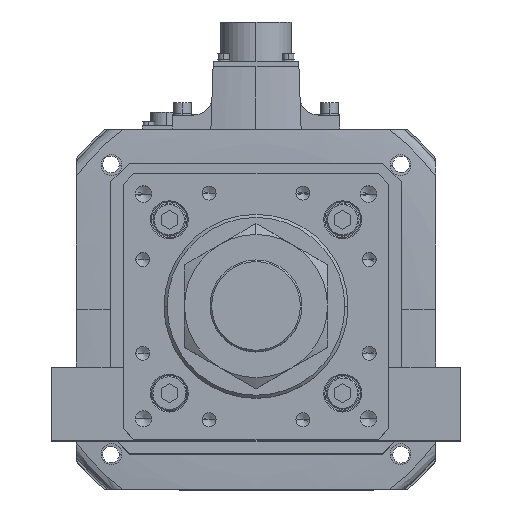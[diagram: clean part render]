
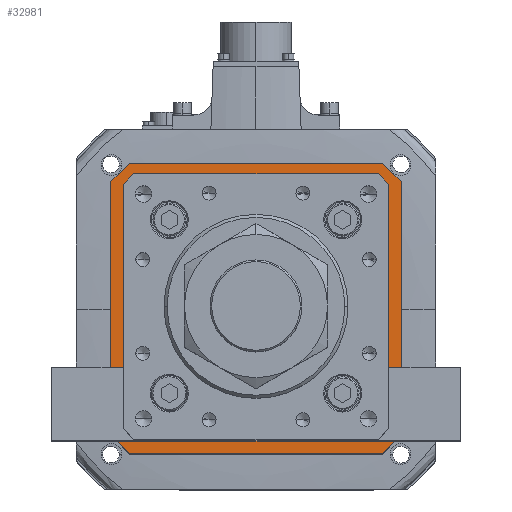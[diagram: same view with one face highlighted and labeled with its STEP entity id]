
A CAD part, top view. The second image highlights one B-rep face of the part: STEP entity #32981.
In plain terms, the highlighted planar face has unit normal (0, 0, 1) as drawn and (0, 0, -1) by its records, which use the part's own axes.
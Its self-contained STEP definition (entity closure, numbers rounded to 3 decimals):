
#456 = ORIENTED_EDGE ( 'NONE', *, *, #44078, .F. ) ;
#967 = CARTESIAN_POINT ( 'NONE',  ( 0., 0., 60. ) ) ;
#1071 = LINE ( 'NONE', #31620, #9436 ) ;
#1867 = VERTEX_POINT ( 'NONE', #21001 ) ;
#1875 = VERTEX_POINT ( 'NONE', #38016 ) ;
#1907 = EDGE_CURVE ( 'NONE', #2552, #45604, #2354, .T. ) ;
#2354 = LINE ( 'NONE', #48020, #9991 ) ;
#2552 = VERTEX_POINT ( 'NONE', #26548 ) ;
#2864 = CARTESIAN_POINT ( 'NONE',  ( -58.793, 63., 60. ) ) ;
#3494 = EDGE_CURVE ( 'NONE', #1867, #17499, #37509, .T. ) ;
#3609 = DIRECTION ( 'NONE',  ( 1., 0., 0. ) ) ;
#4566 = EDGE_LOOP ( 'NONE', ( #18502, #28209, #23089, #40935, #39310, #55940, #456, #29570 ) ) ;
#4709 = CARTESIAN_POINT ( 'NONE',  ( 71., -62., 60. ) ) ;
#5065 = DIRECTION ( 'NONE',  ( -1., 0., 0. ) ) ;
#5562 = DIRECTION ( 'NONE',  ( 0., 1., 0. ) ) ;
#5602 = EDGE_CURVE ( 'NONE', #17499, #52318, #11096, .T. ) ;
#6198 = EDGE_CURVE ( 'NONE', #31671, #1875, #40435, .T. ) ;
#6950 = CARTESIAN_POINT ( 'NONE',  ( 60.896, 60.896, 60. ) ) ;
#7069 = EDGE_CURVE ( 'NONE', #26475, #50192, #48624, .T. ) ;
#7339 = CARTESIAN_POINT ( 'NONE',  ( 58.793, -63., 60. ) ) ;
#7445 = LINE ( 'NONE', #6950, #28885 ) ;
#9111 = DIRECTION ( 'NONE',  ( -0.707, 0.707, 0. ) ) ;
#9436 = VECTOR ( 'NONE', #5065, 1000. ) ;
#9495 = DIRECTION ( 'NONE',  ( 1., 0., 0. ) ) ;
#9605 = DIRECTION ( 'NONE',  ( -0.707, -0.707, 0. ) ) ;
#9991 = VECTOR ( 'NONE', #48221, 1000. ) ;
#10776 = DIRECTION ( 'NONE',  ( 0., -1., 0. ) ) ;
#11096 = LINE ( 'NONE', #25736, #30483 ) ;
#11619 = DIRECTION ( 'NONE',  ( -0.707, -0.707, 0. ) ) ;
#11645 = VECTOR ( 'NONE', #13562, 1000. ) ;
#11685 = LINE ( 'NONE', #56849, #42760 ) ;
#13140 = EDGE_CURVE ( 'NONE', #26475, #45604, #1071, .T. ) ;
#13562 = DIRECTION ( 'NONE',  ( 0.707, 0.707, 0. ) ) ;
#13719 = ORIENTED_EDGE ( 'NONE', *, *, #3494, .T. ) ;
#14165 = VECTOR ( 'NONE', #9605, 1000. ) ;
#14442 = ORIENTED_EDGE ( 'NONE', *, *, #5602, .T. ) ;
#14486 = CARTESIAN_POINT ( 'NONE',  ( 63., 58.793, 60. ) ) ;
#16526 = AXIS2_PLACEMENT_3D ( 'NONE', #967, #31968, #45419 ) ;
#17499 = VERTEX_POINT ( 'NONE', #2864 ) ;
#18316 = EDGE_CURVE ( 'NONE', #2552, #43429, #39971, .T. ) ;
#18502 = ORIENTED_EDGE ( 'NONE', *, *, #49831, .F. ) ;
#18910 = VECTOR ( 'NONE', #45713, 1000. ) ;
#21001 = CARTESIAN_POINT ( 'NONE',  ( 58.793, 63., 60. ) ) ;
#21186 = ORIENTED_EDGE ( 'NONE', *, *, #30657, .T. ) ;
#22091 = CARTESIAN_POINT ( 'NONE',  ( -62., -71., 60. ) ) ;
#22329 = ORIENTED_EDGE ( 'NONE', *, *, #53125, .T. ) ;
#23089 = ORIENTED_EDGE ( 'NONE', *, *, #18316, .F. ) ;
#23121 = LINE ( 'NONE', #56255, #37634 ) ;
#24074 = LINE ( 'NONE', #35611, #11645 ) ;
#25736 = CARTESIAN_POINT ( 'NONE',  ( -60.896, 60.896, 60. ) ) ;
#26092 = EDGE_LOOP ( 'NONE', ( #14442, #21186, #34993, #56998, #22329, #42084, #34624, #13719 ) ) ;
#26475 = VERTEX_POINT ( 'NONE', #38513 ) ;
#26534 = LINE ( 'NONE', #44452, #27888 ) ;
#26540 = EDGE_CURVE ( 'NONE', #38836, #43429, #47575, .T. ) ;
#26548 = CARTESIAN_POINT ( 'NONE',  ( -71., 62., 60. ) ) ;
#27047 = EDGE_CURVE ( 'NONE', #29587, #52895, #46838, .T. ) ;
#27829 = VERTEX_POINT ( 'NONE', #41405 ) ;
#27888 = VECTOR ( 'NONE', #9495, 1000. ) ;
#28209 = ORIENTED_EDGE ( 'NONE', *, *, #26540, .T. ) ;
#28885 = VECTOR ( 'NONE', #38112, 1000. ) ;
#29570 = ORIENTED_EDGE ( 'NONE', *, *, #6198, .T. ) ;
#29587 = VERTEX_POINT ( 'NONE', #41580 ) ;
#30090 = DIRECTION ( 'NONE',  ( -1., 0., 0. ) ) ;
#30482 = VERTEX_POINT ( 'NONE', #39755 ) ;
#30483 = VECTOR ( 'NONE', #11619, 1000. ) ;
#30549 = CARTESIAN_POINT ( 'NONE',  ( -71., 71., 60. ) ) ;
#30657 = EDGE_CURVE ( 'NONE', #52318, #27829, #23121, .T. ) ;
#30662 = CARTESIAN_POINT ( 'NONE',  ( -71., -62., 60. ) ) ;
#31620 = CARTESIAN_POINT ( 'NONE',  ( -71., 71., 60. ) ) ;
#31671 = VERTEX_POINT ( 'NONE', #4709 ) ;
#31698 = DIRECTION ( 'NONE',  ( 0.707, -0.707, 0. ) ) ;
#31968 = DIRECTION ( 'NONE',  ( 0., 0., 1. ) ) ;
#32771 = LINE ( 'NONE', #45200, #40390 ) ;
#32981 = ADVANCED_FACE ( 'NONE', ( #50595, #43665 ), #41370, .F. ) ;
#34624 = ORIENTED_EDGE ( 'NONE', *, *, #40252, .T. ) ;
#34882 = DIRECTION ( 'NONE',  ( 0., 1., 0. ) ) ;
#34993 = ORIENTED_EDGE ( 'NONE', *, *, #42953, .T. ) ;
#35210 = VECTOR ( 'NONE', #9111, 1000. ) ;
#35611 = CARTESIAN_POINT ( 'NONE',  ( 60.896, -60.896, 60. ) ) ;
#36099 = CARTESIAN_POINT ( 'NONE',  ( 71., -62., 60. ) ) ;
#37509 = LINE ( 'NONE', #52454, #52671 ) ;
#37628 = CARTESIAN_POINT ( 'NONE',  ( 62., 71., 60. ) ) ;
#37634 = VECTOR ( 'NONE', #43499, 1000. ) ;
#38016 = CARTESIAN_POINT ( 'NONE',  ( 62., -71., 60. ) ) ;
#38112 = DIRECTION ( 'NONE',  ( -0.707, 0.707, 0. ) ) ;
#38513 = CARTESIAN_POINT ( 'NONE',  ( 62., 71., 60. ) ) ;
#38836 = VERTEX_POINT ( 'NONE', #52845 ) ;
#39310 = ORIENTED_EDGE ( 'NONE', *, *, #13140, .F. ) ;
#39320 = EDGE_CURVE ( 'NONE', #30482, #43008, #11685, .T. ) ;
#39658 = CARTESIAN_POINT ( 'NONE',  ( -62., 71., 60. ) ) ;
#39755 = CARTESIAN_POINT ( 'NONE',  ( 63., -58.793, 60. ) ) ;
#39971 = LINE ( 'NONE', #30549, #54423 ) ;
#40252 = EDGE_CURVE ( 'NONE', #43008, #1867, #7445, .T. ) ;
#40390 = VECTOR ( 'NONE', #5562, 1000. ) ;
#40435 = LINE ( 'NONE', #36099, #14165 ) ;
#40935 = ORIENTED_EDGE ( 'NONE', *, *, #1907, .T. ) ;
#41370 = PLANE ( 'NONE',  #16526 ) ;
#41405 = CARTESIAN_POINT ( 'NONE',  ( -63., -58.793, 60. ) ) ;
#41580 = CARTESIAN_POINT ( 'NONE',  ( -58.793, -63., 60. ) ) ;
#41912 = CARTESIAN_POINT ( 'NONE',  ( 71., 62., 60. ) ) ;
#42084 = ORIENTED_EDGE ( 'NONE', *, *, #39320, .T. ) ;
#42760 = VECTOR ( 'NONE', #34882, 1000. ) ;
#42773 = CARTESIAN_POINT ( 'NONE',  ( -63., 58.793, 60. ) ) ;
#42953 = EDGE_CURVE ( 'NONE', #27829, #29587, #45201, .T. ) ;
#43008 = VERTEX_POINT ( 'NONE', #14486 ) ;
#43429 = VERTEX_POINT ( 'NONE', #30662 ) ;
#43499 = DIRECTION ( 'NONE',  ( 0., -1., 0. ) ) ;
#43665 = FACE_OUTER_BOUND ( 'NONE', #4566, .T. ) ;
#43821 = VECTOR ( 'NONE', #31698, 1000. ) ;
#44078 = EDGE_CURVE ( 'NONE', #31671, #50192, #32771, .T. ) ;
#44402 = CARTESIAN_POINT ( 'NONE',  ( -60.896, -60.896, 60. ) ) ;
#44452 = CARTESIAN_POINT ( 'NONE',  ( -71., -71., 60. ) ) ;
#45200 = CARTESIAN_POINT ( 'NONE',  ( 71., 71., 60. ) ) ;
#45201 = LINE ( 'NONE', #44402, #43821 ) ;
#45419 = DIRECTION ( 'NONE',  ( 1., 0., 0. ) ) ;
#45604 = VERTEX_POINT ( 'NONE', #39658 ) ;
#45713 = DIRECTION ( 'NONE',  ( 0.707, -0.707, 0. ) ) ;
#46782 = VECTOR ( 'NONE', #3609, 1000. ) ;
#46838 = LINE ( 'NONE', #48085, #46782 ) ;
#47575 = LINE ( 'NONE', #22091, #35210 ) ;
#48020 = CARTESIAN_POINT ( 'NONE',  ( -71., 62., 60. ) ) ;
#48085 = CARTESIAN_POINT ( 'NONE',  ( 59., -63., 60. ) ) ;
#48221 = DIRECTION ( 'NONE',  ( 0.707, 0.707, 0. ) ) ;
#48624 = LINE ( 'NONE', #37628, #18910 ) ;
#49831 = EDGE_CURVE ( 'NONE', #38836, #1875, #26534, .T. ) ;
#50192 = VERTEX_POINT ( 'NONE', #41912 ) ;
#50595 = FACE_BOUND ( 'NONE', #26092, .T. ) ;
#52318 = VERTEX_POINT ( 'NONE', #42773 ) ;
#52454 = CARTESIAN_POINT ( 'NONE',  ( -59., 63., 60. ) ) ;
#52671 = VECTOR ( 'NONE', #30090, 1000. ) ;
#52845 = CARTESIAN_POINT ( 'NONE',  ( -62., -71., 60. ) ) ;
#52895 = VERTEX_POINT ( 'NONE', #7339 ) ;
#53125 = EDGE_CURVE ( 'NONE', #52895, #30482, #24074, .T. ) ;
#54423 = VECTOR ( 'NONE', #10776, 1000. ) ;
#55940 = ORIENTED_EDGE ( 'NONE', *, *, #7069, .T. ) ;
#56255 = CARTESIAN_POINT ( 'NONE',  ( -63., -59., 60. ) ) ;
#56849 = CARTESIAN_POINT ( 'NONE',  ( 63., 59., 60. ) ) ;
#56998 = ORIENTED_EDGE ( 'NONE', *, *, #27047, .T. ) ;
